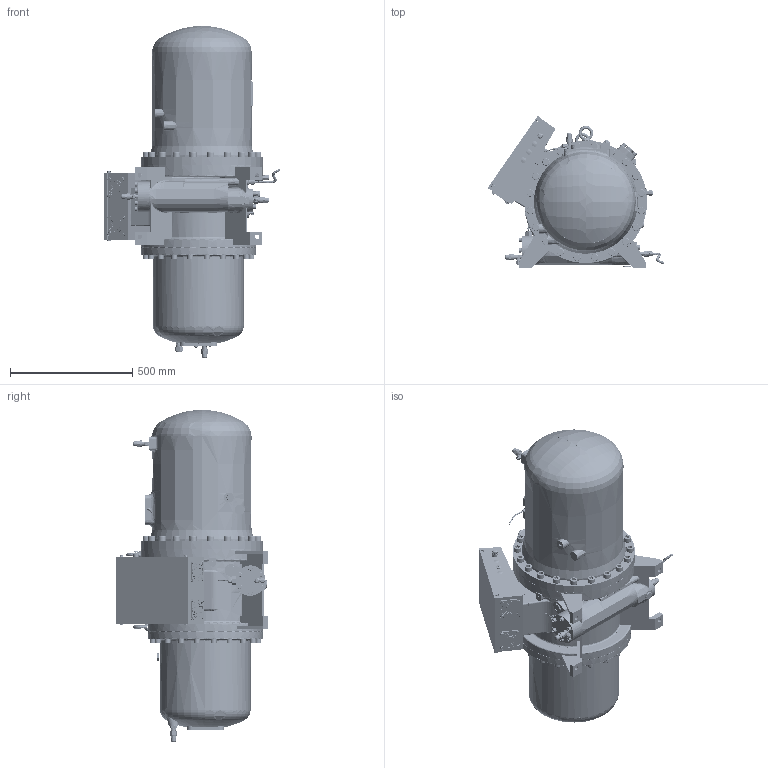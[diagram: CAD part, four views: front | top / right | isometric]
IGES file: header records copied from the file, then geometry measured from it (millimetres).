
Global section: file name: RC2-310A&B outline; native system: Autodesk Inventor 2017; preprocessor: unknown; author: hedylu; date: 20170626.143639; units: centimetre
Bounding box: 721.48 x 622.75 x 1356.67 mm (x, y, z)
Surface area: 3984070.3 mm2 (no closed solid volume)
Topology: 0 solids, 0 shells, 2838 faces, 35465 edges, 35450 vertices
Faces by surface type: bspline 1477, revolution 1361
